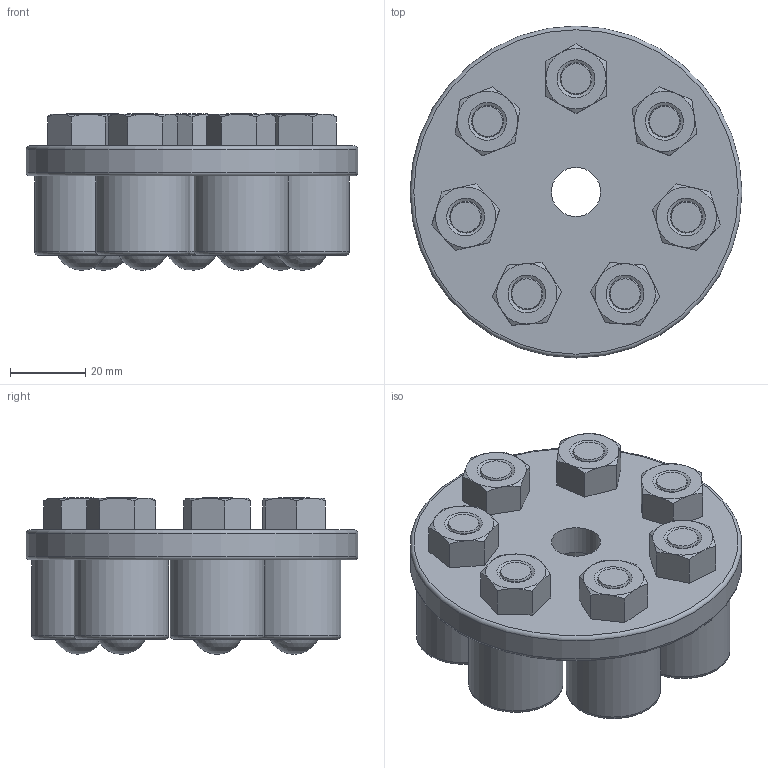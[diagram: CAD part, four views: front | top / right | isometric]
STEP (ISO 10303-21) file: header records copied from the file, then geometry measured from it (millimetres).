
FILE_DESCRIPTION(/* description */ (''),/* implementation_level */ '2;1');
FILE_NAME(/* name */ 'Z:\80-CAD共有ファイル\製品3D\X2\30C730FC30BF\X0\\26-UF\UF-88.stp',/* time_stamp */ '2015-01-07T10:30:01+09:00',/* author */ ('yamaki'),/* organization */ (''),/* preprocessor_version */ 'ST-DEVELOPER v15.6',/* originating_system */ 'Autodesk Inventor 2015',/* authorisation */ '');
FILE_SCHEMA (('AUTOMOTIVE_DESIGN { 1 0 10303 214 3 1 1 }'));
Length unit declared in the file: millimetre
Products named in the file (3): 2688AT-01; 1428; 2688AA
Bounding box: 88 x 88 x 41.5 mm (x, y, z)
Volume: 134200.5 mm3; surface area: 35873.5 mm2
Topology: 8 solids, 8 shells, 181 faces, 403 edges, 252 vertices
Faces by surface type: plane 72, cone 63, torus 16, cylinder 16, sphere 14
Full cylindrical faces by diameter (mm): 13 x1, 13.8 x7, 25 x7, 88 x1
Entity records: 4319 total; most frequent: CARTESIAN_POINT 856, DIRECTION 706, ORIENTED_EDGE 586, AXIS2_PLACEMENT_3D 311, EDGE_CURVE 293, EDGE_LOOP 264, VERTEX_POINT 209, ADVANCED_FACE 175
